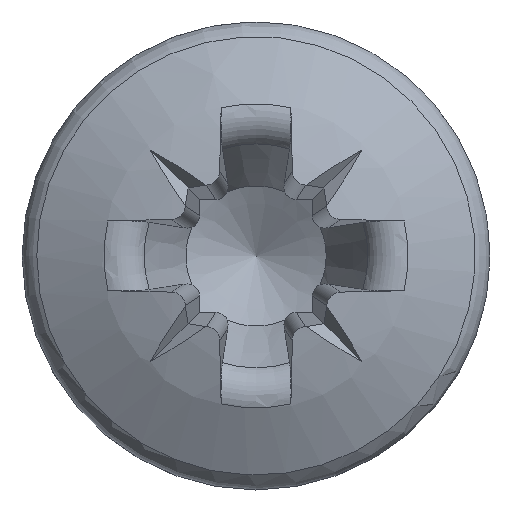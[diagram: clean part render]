
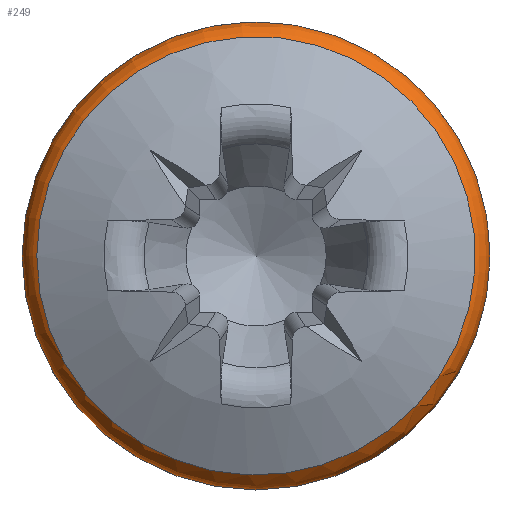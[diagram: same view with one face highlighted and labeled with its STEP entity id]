
A CAD part, top view. The second image highlights one B-rep face of the part: STEP entity #249.
In plain terms, the highlighted toroidal (fillet/blend) face has major radius 1.907 mm and minor radius 0.293 mm.
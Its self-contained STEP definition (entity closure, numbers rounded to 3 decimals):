
#171=TOROIDAL_SURFACE('',#1297,1.907,0.293);
#186=FACE_BOUND('',#398,.T.);
#187=FACE_BOUND('',#399,.T.);
#249=ADVANCED_FACE('',(#186,#187),#171,.T.);
#398=EDGE_LOOP('',(#739));
#399=EDGE_LOOP('',(#740));
#426=CIRCLE('',#1207,2.062);
#460=CIRCLE('',#1246,2.2);
#739=ORIENTED_EDGE('',*,*,#1005,.F.);
#740=ORIENTED_EDGE('',*,*,#957,.F.);
#839=VERTEX_POINT('',#2155);
#885=VERTEX_POINT('',#2479);
#957=EDGE_CURVE('',#839,#839,#426,.T.);
#1005=EDGE_CURVE('',#885,#885,#460,.T.);
#1207=AXIS2_PLACEMENT_3D('',#2154,#1316,#1317);
#1246=AXIS2_PLACEMENT_3D('',#2478,#1394,#1395);
#1297=AXIS2_PLACEMENT_3D('',#2943,#1524,#1525);
#1316=DIRECTION('',(0.,0.,1.));
#1317=DIRECTION('',(-1.,0.,0.));
#1394=DIRECTION('',(0.,0.,-1.));
#1395=DIRECTION('',(-1.,0.,0.));
#1524=DIRECTION('',(0.,0.,-1.));
#1525=DIRECTION('',(-1.,0.,0.));
#2154=CARTESIAN_POINT('',(0.,0.,1.11));
#2155=CARTESIAN_POINT('',(-2.062,0.,1.11));
#2478=CARTESIAN_POINT('',(0.,0.,0.861));
#2479=CARTESIAN_POINT('',(-2.2,0.,0.861));
#2943=CARTESIAN_POINT('',(0.,0.,0.861));
